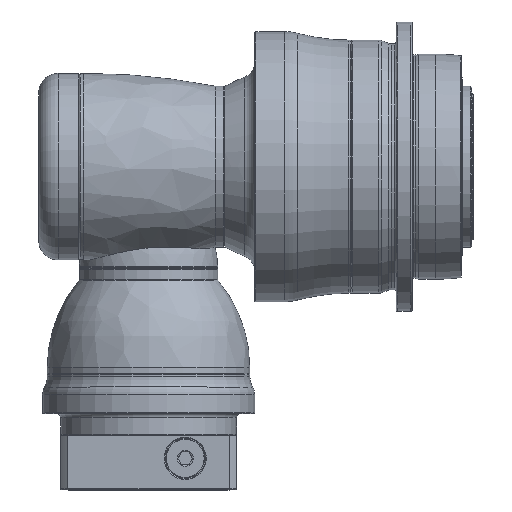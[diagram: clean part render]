
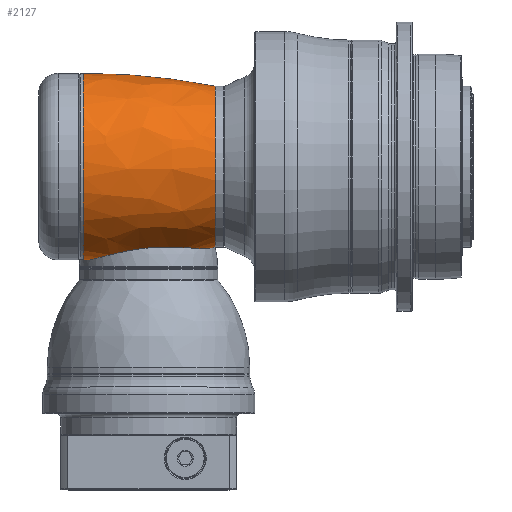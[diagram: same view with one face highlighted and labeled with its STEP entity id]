
A CAD part, top view. The second image highlights one B-rep face of the part: STEP entity #2127.
In plain terms, the highlighted free-form (B-spline) face has degree [3, 3] with [7, 4] control points.
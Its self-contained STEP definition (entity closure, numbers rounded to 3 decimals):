
#561=CARTESIAN_POINT('',(-38.133,341.993,
0.));
#562=DIRECTION('',(0.,0.,-1.));
#563=DIRECTION('',(0.199,-0.98,0.));
#564=AXIS2_PLACEMENT_3D('',#561,#562,#563);
#571=CARTESIAN_POINT('',(-38.133,-341.993,
0.));
#572=DIRECTION('',(0.,0.,1.));
#573=DIRECTION('',(0.199,0.98,0.));
#574=AXIS2_PLACEMENT_3D('',#571,#572,#573);
#602=CARTESIAN_POINT('',(-40.5,0.,0.));
#603=DIRECTION('',(1.,0.,0.));
#604=DIRECTION('',(0.,1.,0.01));
#605=AXIS2_PLACEMENT_3D('',#602,#603,#604);
#628=CARTESIAN_POINT('',(-40.249,58.001,0.));
#629=CARTESIAN_POINT('',(-40.249,58.001,0.069));
#630=CARTESIAN_POINT('',(-40.268,58.001,0.209));
#631=CARTESIAN_POINT('',(-40.356,58.,0.402));
#632=CARTESIAN_POINT('',(-40.448,57.998,0.509));
#633=CARTESIAN_POINT('',(-40.5,57.997,0.555));
#635=CARTESIAN_POINT('',(41.5,0.,0.));
#636=DIRECTION('',(1.,0.,0.));
#637=DIRECTION('',(0.,1.,0.));
#638=AXIS2_PLACEMENT_3D('',#635,#636,#637);
#640=CARTESIAN_POINT('',(37.853,-50.723,
0.));
#641=CARTESIAN_POINT('',(37.201,-50.849,1.535));
#642=CARTESIAN_POINT('',(35.679,-51.003,4.541));
#643=CARTESIAN_POINT('',(32.646,-50.982,8.913));
#644=CARTESIAN_POINT('',(28.982,-50.777,12.881));
#645=CARTESIAN_POINT('',(24.797,-50.487,16.34));
#646=CARTESIAN_POINT('',(20.137,-50.203,19.257));
#647=CARTESIAN_POINT('',(15.063,-50.016,21.589));
#648=CARTESIAN_POINT('',(9.633,-50.004,23.29));
#649=CARTESIAN_POINT('',(3.914,-50.231,24.313));
#650=CARTESIAN_POINT('',(-2.014,-50.741,24.595));
#651=CARTESIAN_POINT('',(-7.959,-51.534,24.088));
#652=CARTESIAN_POINT('',(-13.747,-52.561,22.787));
#653=CARTESIAN_POINT('',(-19.259,-53.743,20.707));
#654=CARTESIAN_POINT('',(-24.358,-54.972,17.898));
#655=CARTESIAN_POINT('',(-28.918,-56.121,14.452));
#656=CARTESIAN_POINT('',(-32.85,-57.073,10.493));
#657=CARTESIAN_POINT('',(-36.11,-57.736,6.162));
#658=CARTESIAN_POINT('',(-38.693,-58.049,1.578));
#659=CARTESIAN_POINT('',(-39.967,-58.004,
-1.557));
#660=CARTESIAN_POINT('',(-40.5,-57.915,
-3.141));
#821=CARTESIAN_POINT('',(41.5,50.,0.));
#822=CARTESIAN_POINT('',(41.5,-50.,0.));
#823=VERTEX_POINT('',#821);
#824=VERTEX_POINT('',#822);
#825=CARTESIAN_POINT('',(37.853,-50.723,
0.));
#826=VERTEX_POINT('',#825);
#855=VERTEX_POINT('',#660);
#895=VERTEX_POINT('',#628);
#896=VERTEX_POINT('',#633);
#2088=CARTESIAN_POINT('',(-42.151,57.868,
-3.704));
#2089=CARTESIAN_POINT('',(-13.485,58.156,
-3.722));
#2090=CARTESIAN_POINT('',(15.047,55.378,-3.544));
#2091=CARTESIAN_POINT('',(43.117,49.567,-3.172));
#2092=CARTESIAN_POINT('',(-42.151,60.198,32.694));
#2093=CARTESIAN_POINT('',(-13.485,60.497,32.856));
#2094=CARTESIAN_POINT('',(15.047,57.607,31.287));
#2095=CARTESIAN_POINT('',(43.117,51.562,28.003));
#2096=CARTESIAN_POINT('',(-42.151,34.888,58.954));
#2097=CARTESIAN_POINT('',(-13.485,35.061,59.246));
#2098=CARTESIAN_POINT('',(15.047,33.386,56.416));
#2099=CARTESIAN_POINT('',(43.117,29.883,50.496));
#2100=CARTESIAN_POINT('',(-42.151,-1.571,
57.966));
#2101=CARTESIAN_POINT('',(-13.485,-1.579,
58.253));
#2102=CARTESIAN_POINT('',(15.047,-1.503,55.471));
#2103=CARTESIAN_POINT('',(43.117,-1.346,49.65));
#2104=CARTESIAN_POINT('',(-42.151,-38.029,
56.977));
#2105=CARTESIAN_POINT('',(-13.485,-38.218,
57.26));
#2106=CARTESIAN_POINT('',(15.047,-36.393,54.525));
#2107=CARTESIAN_POINT('',(43.117,-32.574,48.804));
#2108=CARTESIAN_POINT('',(-42.151,-61.88,
29.385));
#2109=CARTESIAN_POINT('',(-13.485,-62.188,
29.531));
#2110=CARTESIAN_POINT('',(15.047,-59.217,28.121));
#2111=CARTESIAN_POINT('',(43.117,-53.003,25.17));
#2112=CARTESIAN_POINT('',(-42.151,-57.583,
-6.833));
#2113=CARTESIAN_POINT('',(-13.485,-57.869,
-6.866));
#2114=CARTESIAN_POINT('',(15.047,-55.105,
-6.538));
#2115=CARTESIAN_POINT('',(43.117,-49.322,
-5.852));
#2116=(BOUNDED_SURFACE()B_SPLINE_SURFACE(3,3,((#2088,#2089,#2090,#2091),(#2092,
#2093,#2094,#2095),(#2096,#2097,#2098,#2099),(#2100,#2101,#2102,#2103),(#2104,
#2105,#2106,#2107),(#2108,#2109,#2110,#2111),(#2112,#2113,#2114,#2115)),
.UNSPECIFIED.,.F.,.F.,.F.)B_SPLINE_SURFACE_WITH_KNOTS((4,3,4),(4,4),(0.,1.,
2.),(0.,1.),.UNSPECIFIED.)GEOMETRIC_REPRESENTATION_ITEM()RATIONAL_B_SPLINE_SURFACE(((1.198,1.193,1.193,1.198),(
0.938,0.934,0.934,0.938),(
0.938,0.934,0.934,0.938),(
1.198,1.193,1.193,1.198),(
0.938,0.934,0.934,0.938),(
0.938,0.934,0.934,0.938),(
1.198,1.193,1.193,1.198)))REPRESENTATION_ITEM('')SURFACE());
#2117=ORIENTED_EDGE('',*,*,#2044,.F.);
#2118=ORIENTED_EDGE('',*,*,#2031,.F.);
#2120=ORIENTED_EDGE('',*,*,#2119,.T.);
#2121=ORIENTED_EDGE('',*,*,#2027,.T.);
#2123=ORIENTED_EDGE('',*,*,#2122,.T.);
#2124=ORIENTED_EDGE('',*,*,#2063,.F.);
#2125=EDGE_LOOP('',(#2117,#2118,#2120,#2121,#2123,#2124));
#2126=FACE_OUTER_BOUND('',#2125,.F.);
#2127=ADVANCED_FACE('',(#2126),#2116,.T.);
#565=CIRCLE('',#564,400.);
#575=CIRCLE('',#574,400.);
#606=CIRCLE('',#605,58.);
#634=B_SPLINE_CURVE_WITH_KNOTS('',3,(#628,#629,#630,#631,#632,#633),
.UNSPECIFIED.,.F.,.F.,(4,1,1,4),(0.,0.333,0.667,1.),
.UNSPECIFIED.);
#639=CIRCLE('',#638,50.);
#661=B_SPLINE_CURVE_WITH_KNOTS('',3,(#640,#641,#642,#643,#644,#645,#646,#647,
#648,#649,#650,#651,#652,#653,#654,#655,#656,#657,#658,#659,#660),.UNSPECIFIED.,
.F.,.F.,(4,1,1,1,1,1,1,1,1,1,1,1,1,1,1,1,1,1,4),(0.,0.056,
0.111,0.167,0.222,0.278,
0.333,0.389,0.444,0.5,0.556,
0.611,0.667,0.722,0.778,
0.833,0.889,0.944,1.),.UNSPECIFIED.);
#2027=EDGE_CURVE('',#824,#826,#565,.T.);
#2031=EDGE_CURVE('',#823,#895,#575,.T.);
#2044=EDGE_CURVE('',#895,#896,#634,.T.);
#2063=EDGE_CURVE('',#896,#855,#606,.T.);
#2119=EDGE_CURVE('',#823,#824,#639,.T.);
#2122=EDGE_CURVE('',#826,#855,#661,.T.);
